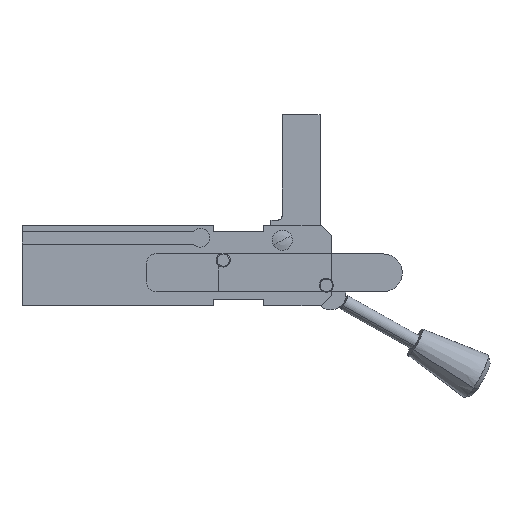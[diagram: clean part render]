
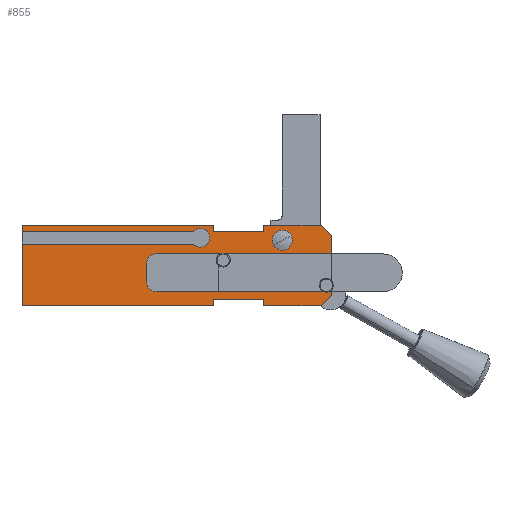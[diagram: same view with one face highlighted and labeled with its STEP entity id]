
A CAD part, top view. The second image highlights one B-rep face of the part: STEP entity #855.
In plain terms, the highlighted planar face has unit normal (0, 0, 1).
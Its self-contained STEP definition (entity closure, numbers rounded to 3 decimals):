
#632=AXIS2_PLACEMENT_3D('Plane Axis2P3D',#629,#630,#631) ;
#645=AXIS2_PLACEMENT_3D('Circle Axis2P3D',#643,#644,$) ;
#659=AXIS2_PLACEMENT_3D('Circle Axis2P3D',#657,#658,$) ;
#673=AXIS2_PLACEMENT_3D('Circle Axis2P3D',#671,#672,$) ;
#750=AXIS2_PLACEMENT_3D('Circle Axis2P3D',#748,#749,$) ;
#804=AXIS2_PLACEMENT_3D('Circle Axis2P3D',#802,#803,$) ;
#839=AXIS2_PLACEMENT_3D('Circle Axis2P3D',#837,#838,$) ;
#848=AXIS2_PLACEMENT_3D('Circle Axis2P3D',#846,#847,$) ;
#158=CARTESIAN_POINT('Vertex',(-27.5,-23.5,13.)) ;
#186=CARTESIAN_POINT('Vertex',(-7.5,-23.5,13.)) ;
#189=CARTESIAN_POINT('Line Origine',(-17.5,-23.5,13.)) ;
#280=CARTESIAN_POINT('Vertex',(-27.5,-26.,13.)) ;
#288=CARTESIAN_POINT('Line Origine',(-27.5,-24.75,13.)) ;
#602=CARTESIAN_POINT('Vertex',(-7.5,-26.,13.)) ;
#605=CARTESIAN_POINT('Line Origine',(-7.5,-24.75,13.)) ;
#629=CARTESIAN_POINT('Axis2P3D Location',(0.,0.,13.)) ;
#634=CARTESIAN_POINT('Line Origine',(-16.698,-20.5,13.)) ;
#638=CARTESIAN_POINT('Vertex',(-50.,-20.5,13.)) ;
#640=CARTESIAN_POINT('Vertex',(16.604,-20.5,13.)) ;
#643=CARTESIAN_POINT('Axis2P3D Location',(-50.,-16.5,13.)) ;
#647=CARTESIAN_POINT('Vertex',(-54.,-16.5,13.)) ;
#650=CARTESIAN_POINT('Line Origine',(-54.,-12.9,13.)) ;
#654=CARTESIAN_POINT('Vertex',(-54.,-9.3,13.)) ;
#657=CARTESIAN_POINT('Axis2P3D Location',(-50.,-9.3,13.)) ;
#661=CARTESIAN_POINT('Vertex',(-50.,-5.3,13.)) ;
#664=CARTESIAN_POINT('Line Origine',(-37.198,-5.3,13.)) ;
#668=CARTESIAN_POINT('Vertex',(-24.396,-5.3,13.)) ;
#671=CARTESIAN_POINT('Axis2P3D Location',(-23.5,-7.9,13.)) ;
#675=CARTESIAN_POINT('Vertex',(-22.604,-5.3,13.)) ;
#678=CARTESIAN_POINT('Line Origine',(-1.552,-5.3,13.)) ;
#682=CARTESIAN_POINT('Vertex',(19.5,-5.3,13.)) ;
#685=CARTESIAN_POINT('Line Origine',(19.5,-1.65,13.)) ;
#689=CARTESIAN_POINT('Vertex',(19.5,2.,13.)) ;
#692=CARTESIAN_POINT('Line Origine',(17.5,4.,13.)) ;
#696=CARTESIAN_POINT('Vertex',(15.5,6.,13.)) ;
#699=CARTESIAN_POINT('Line Origine',(4.,6.,13.)) ;
#703=CARTESIAN_POINT('Vertex',(-7.5,6.,13.)) ;
#706=CARTESIAN_POINT('Line Origine',(-7.5,4.75,13.)) ;
#710=CARTESIAN_POINT('Vertex',(-7.5,3.5,13.)) ;
#713=CARTESIAN_POINT('Line Origine',(-17.5,3.5,13.)) ;
#717=CARTESIAN_POINT('Vertex',(-27.5,3.5,13.)) ;
#720=CARTESIAN_POINT('Line Origine',(-27.5,4.75,13.)) ;
#724=CARTESIAN_POINT('Vertex',(-27.5,6.,13.)) ;
#727=CARTESIAN_POINT('Line Origine',(-65.5,6.,13.)) ;
#731=CARTESIAN_POINT('Vertex',(-103.5,6.,13.)) ;
#734=CARTESIAN_POINT('Line Origine',(-103.5,4.8,13.)) ;
#738=CARTESIAN_POINT('Vertex',(-103.5,3.6,13.)) ;
#741=CARTESIAN_POINT('Line Origine',(-69.351,3.6,13.)) ;
#745=CARTESIAN_POINT('Vertex',(-35.202,3.6,13.)) ;
#748=CARTESIAN_POINT('Axis2P3D Location',(-32.5,1.,13.)) ;
#752=CARTESIAN_POINT('Vertex',(-35.202,-1.6,13.)) ;
#755=CARTESIAN_POINT('Line Origine',(-69.351,-1.6,13.)) ;
#759=CARTESIAN_POINT('Vertex',(-103.5,-1.6,13.)) ;
#762=CARTESIAN_POINT('Line Origine',(-103.5,-13.8,13.)) ;
#766=CARTESIAN_POINT('Vertex',(-103.5,-26.,13.)) ;
#769=CARTESIAN_POINT('Line Origine',(-65.5,-26.,13.)) ;
#774=CARTESIAN_POINT('Line Origine',(4.,-26.,13.)) ;
#778=CARTESIAN_POINT('Vertex',(15.5,-26.,13.)) ;
#781=CARTESIAN_POINT('Line Origine',(17.5,-24.,13.)) ;
#785=CARTESIAN_POINT('Vertex',(19.5,-22.,13.)) ;
#788=CARTESIAN_POINT('Line Origine',(19.5,-21.25,13.)) ;
#792=CARTESIAN_POINT('Vertex',(19.5,-20.5,13.)) ;
#795=CARTESIAN_POINT('Line Origine',(18.948,-20.5,13.)) ;
#799=CARTESIAN_POINT('Vertex',(18.396,-20.5,13.)) ;
#802=CARTESIAN_POINT('Axis2P3D Location',(17.5,-17.9,13.)) ;
#837=CARTESIAN_POINT('Axis2P3D Location',(0.,0.,13.)) ;
#841=CARTESIAN_POINT('Vertex',(-3.51,-1.918,13.)) ;
#843=CARTESIAN_POINT('Vertex',(3.51,1.918,13.)) ;
#846=CARTESIAN_POINT('Axis2P3D Location',(0.,0.,13.)) ;
#190=DIRECTION('Vector Direction',(1.,0.,0.)) ;
#289=DIRECTION('Vector Direction',(0.,1.,0.)) ;
#606=DIRECTION('Vector Direction',(0.,-1.,0.)) ;
#630=DIRECTION('Axis2P3D Direction',(0.,0.,1.)) ;
#631=DIRECTION('Axis2P3D XDirection',(1.,0.,0.)) ;
#635=DIRECTION('Vector Direction',(-1.,0.,0.)) ;
#644=DIRECTION('Axis2P3D Direction',(0.,0.,1.)) ;
#651=DIRECTION('Vector Direction',(0.,-1.,0.)) ;
#658=DIRECTION('Axis2P3D Direction',(0.,0.,1.)) ;
#665=DIRECTION('Vector Direction',(1.,0.,0.)) ;
#672=DIRECTION('Axis2P3D Direction',(0.,0.,1.)) ;
#679=DIRECTION('Vector Direction',(1.,0.,0.)) ;
#686=DIRECTION('Vector Direction',(0.,1.,0.)) ;
#693=DIRECTION('Vector Direction',(0.707,-0.707,0.)) ;
#700=DIRECTION('Vector Direction',(-1.,0.,0.)) ;
#707=DIRECTION('Vector Direction',(0.,-1.,0.)) ;
#714=DIRECTION('Vector Direction',(-1.,0.,0.)) ;
#721=DIRECTION('Vector Direction',(0.,1.,0.)) ;
#728=DIRECTION('Vector Direction',(-1.,0.,0.)) ;
#735=DIRECTION('Vector Direction',(0.,-1.,0.)) ;
#742=DIRECTION('Vector Direction',(-1.,0.,0.)) ;
#749=DIRECTION('Axis2P3D Direction',(0.,0.,1.)) ;
#756=DIRECTION('Vector Direction',(1.,0.,0.)) ;
#763=DIRECTION('Vector Direction',(0.,-1.,0.)) ;
#770=DIRECTION('Vector Direction',(1.,0.,0.)) ;
#775=DIRECTION('Vector Direction',(1.,0.,0.)) ;
#782=DIRECTION('Vector Direction',(0.707,0.707,0.)) ;
#789=DIRECTION('Vector Direction',(0.,1.,0.)) ;
#796=DIRECTION('Vector Direction',(-1.,0.,0.)) ;
#803=DIRECTION('Axis2P3D Direction',(0.,0.,1.)) ;
#838=DIRECTION('Axis2P3D Direction',(0.,0.,1.)) ;
#847=DIRECTION('Axis2P3D Direction',(0.,0.,1.)) ;
#191=VECTOR('Line Direction',#190,1.) ;
#290=VECTOR('Line Direction',#289,1.) ;
#607=VECTOR('Line Direction',#606,1.) ;
#636=VECTOR('Line Direction',#635,1.) ;
#652=VECTOR('Line Direction',#651,1.) ;
#666=VECTOR('Line Direction',#665,1.) ;
#680=VECTOR('Line Direction',#679,1.) ;
#687=VECTOR('Line Direction',#686,1.) ;
#694=VECTOR('Line Direction',#693,1.) ;
#701=VECTOR('Line Direction',#700,1.) ;
#708=VECTOR('Line Direction',#707,1.) ;
#715=VECTOR('Line Direction',#714,1.) ;
#722=VECTOR('Line Direction',#721,1.) ;
#729=VECTOR('Line Direction',#728,1.) ;
#736=VECTOR('Line Direction',#735,1.) ;
#743=VECTOR('Line Direction',#742,1.) ;
#757=VECTOR('Line Direction',#756,1.) ;
#764=VECTOR('Line Direction',#763,1.) ;
#771=VECTOR('Line Direction',#770,1.) ;
#776=VECTOR('Line Direction',#775,1.) ;
#783=VECTOR('Line Direction',#782,1.) ;
#790=VECTOR('Line Direction',#789,1.) ;
#797=VECTOR('Line Direction',#796,1.) ;
#808=ORIENTED_EDGE('',*,*,#642,.F.) ;
#809=ORIENTED_EDGE('',*,*,#649,.F.) ;
#810=ORIENTED_EDGE('',*,*,#656,.F.) ;
#811=ORIENTED_EDGE('',*,*,#663,.F.) ;
#812=ORIENTED_EDGE('',*,*,#670,.F.) ;
#813=ORIENTED_EDGE('',*,*,#677,.T.) ;
#814=ORIENTED_EDGE('',*,*,#684,.F.) ;
#815=ORIENTED_EDGE('',*,*,#691,.T.) ;
#816=ORIENTED_EDGE('',*,*,#698,.T.) ;
#817=ORIENTED_EDGE('',*,*,#705,.T.) ;
#818=ORIENTED_EDGE('',*,*,#712,.T.) ;
#819=ORIENTED_EDGE('',*,*,#719,.T.) ;
#820=ORIENTED_EDGE('',*,*,#726,.T.) ;
#821=ORIENTED_EDGE('',*,*,#733,.T.) ;
#822=ORIENTED_EDGE('',*,*,#740,.T.) ;
#823=ORIENTED_EDGE('',*,*,#747,.F.) ;
#824=ORIENTED_EDGE('',*,*,#754,.F.) ;
#825=ORIENTED_EDGE('',*,*,#761,.F.) ;
#826=ORIENTED_EDGE('',*,*,#768,.T.) ;
#827=ORIENTED_EDGE('',*,*,#773,.T.) ;
#828=ORIENTED_EDGE('',*,*,#292,.T.) ;
#829=ORIENTED_EDGE('',*,*,#193,.T.) ;
#830=ORIENTED_EDGE('',*,*,#609,.T.) ;
#831=ORIENTED_EDGE('',*,*,#780,.T.) ;
#832=ORIENTED_EDGE('',*,*,#787,.T.) ;
#833=ORIENTED_EDGE('',*,*,#794,.T.) ;
#834=ORIENTED_EDGE('',*,*,#801,.F.) ;
#835=ORIENTED_EDGE('',*,*,#806,.T.) ;
#852=ORIENTED_EDGE('',*,*,#845,.F.) ;
#853=ORIENTED_EDGE('',*,*,#850,.F.) ;
#854=FACE_BOUND('',#851,.T.) ;
#855=ADVANCED_FACE('PKS_16_1_ZR_A18_T03_TUENKERS',(#836,#854),#633,.T.) ;
#646=CIRCLE('generated circle',#645,4.) ;
#660=CIRCLE('generated circle',#659,4.) ;
#674=CIRCLE('generated circle',#673,2.75) ;
#751=CIRCLE('generated circle',#750,3.75) ;
#805=CIRCLE('generated circle',#804,2.75) ;
#840=CIRCLE('generated circle',#839,4.) ;
#849=CIRCLE('generated circle',#848,4.) ;
#193=EDGE_CURVE('',#159,#187,#192,.T.) ;
#292=EDGE_CURVE('',#281,#159,#291,.T.) ;
#609=EDGE_CURVE('',#187,#603,#608,.T.) ;
#642=EDGE_CURVE('',#639,#641,#637,.F.) ;
#649=EDGE_CURVE('',#648,#639,#646,.T.) ;
#656=EDGE_CURVE('',#655,#648,#653,.T.) ;
#663=EDGE_CURVE('',#662,#655,#660,.T.) ;
#670=EDGE_CURVE('',#669,#662,#667,.F.) ;
#677=EDGE_CURVE('',#669,#676,#674,.F.) ;
#684=EDGE_CURVE('',#683,#676,#681,.F.) ;
#691=EDGE_CURVE('',#683,#690,#688,.T.) ;
#698=EDGE_CURVE('',#690,#697,#695,.F.) ;
#705=EDGE_CURVE('',#697,#704,#702,.T.) ;
#712=EDGE_CURVE('',#704,#711,#709,.T.) ;
#719=EDGE_CURVE('',#711,#718,#716,.T.) ;
#726=EDGE_CURVE('',#718,#725,#723,.T.) ;
#733=EDGE_CURVE('',#725,#732,#730,.T.) ;
#740=EDGE_CURVE('',#732,#739,#737,.T.) ;
#747=EDGE_CURVE('',#746,#739,#744,.T.) ;
#754=EDGE_CURVE('',#753,#746,#751,.T.) ;
#761=EDGE_CURVE('',#760,#753,#758,.T.) ;
#768=EDGE_CURVE('',#760,#767,#765,.T.) ;
#773=EDGE_CURVE('',#767,#281,#772,.T.) ;
#780=EDGE_CURVE('',#603,#779,#777,.T.) ;
#787=EDGE_CURVE('',#779,#786,#784,.T.) ;
#794=EDGE_CURVE('',#786,#793,#791,.T.) ;
#801=EDGE_CURVE('',#800,#793,#798,.F.) ;
#806=EDGE_CURVE('',#800,#641,#805,.F.) ;
#845=EDGE_CURVE('',#842,#844,#840,.T.) ;
#850=EDGE_CURVE('',#844,#842,#849,.T.) ;
#807=EDGE_LOOP('',(#808,#809,#810,#811,#812,#813,#814,#815,#816,#817,#818,#819,#820,#821,#822,#823,#824,#825,#826,#827,#828,#829,#830,#831,#832,#833,#834,#835)) ;
#851=EDGE_LOOP('',(#852,#853)) ;
#836=FACE_OUTER_BOUND('',#807,.T.) ;
#192=LINE('Line',#189,#191) ;
#291=LINE('Line',#288,#290) ;
#608=LINE('Line',#605,#607) ;
#637=LINE('Line',#634,#636) ;
#653=LINE('Line',#650,#652) ;
#667=LINE('Line',#664,#666) ;
#681=LINE('Line',#678,#680) ;
#688=LINE('Line',#685,#687) ;
#695=LINE('Line',#692,#694) ;
#702=LINE('Line',#699,#701) ;
#709=LINE('Line',#706,#708) ;
#716=LINE('Line',#713,#715) ;
#723=LINE('Line',#720,#722) ;
#730=LINE('Line',#727,#729) ;
#737=LINE('Line',#734,#736) ;
#744=LINE('Line',#741,#743) ;
#758=LINE('Line',#755,#757) ;
#765=LINE('Line',#762,#764) ;
#772=LINE('Line',#769,#771) ;
#777=LINE('Line',#774,#776) ;
#784=LINE('Line',#781,#783) ;
#791=LINE('Line',#788,#790) ;
#798=LINE('Line',#795,#797) ;
#633=PLANE('Plane',#632) ;
#159=VERTEX_POINT('',#158) ;
#187=VERTEX_POINT('',#186) ;
#281=VERTEX_POINT('',#280) ;
#603=VERTEX_POINT('',#602) ;
#639=VERTEX_POINT('',#638) ;
#641=VERTEX_POINT('',#640) ;
#648=VERTEX_POINT('',#647) ;
#655=VERTEX_POINT('',#654) ;
#662=VERTEX_POINT('',#661) ;
#669=VERTEX_POINT('',#668) ;
#676=VERTEX_POINT('',#675) ;
#683=VERTEX_POINT('',#682) ;
#690=VERTEX_POINT('',#689) ;
#697=VERTEX_POINT('',#696) ;
#704=VERTEX_POINT('',#703) ;
#711=VERTEX_POINT('',#710) ;
#718=VERTEX_POINT('',#717) ;
#725=VERTEX_POINT('',#724) ;
#732=VERTEX_POINT('',#731) ;
#739=VERTEX_POINT('',#738) ;
#746=VERTEX_POINT('',#745) ;
#753=VERTEX_POINT('',#752) ;
#760=VERTEX_POINT('',#759) ;
#767=VERTEX_POINT('',#766) ;
#779=VERTEX_POINT('',#778) ;
#786=VERTEX_POINT('',#785) ;
#793=VERTEX_POINT('',#792) ;
#800=VERTEX_POINT('',#799) ;
#842=VERTEX_POINT('',#841) ;
#844=VERTEX_POINT('',#843) ;
